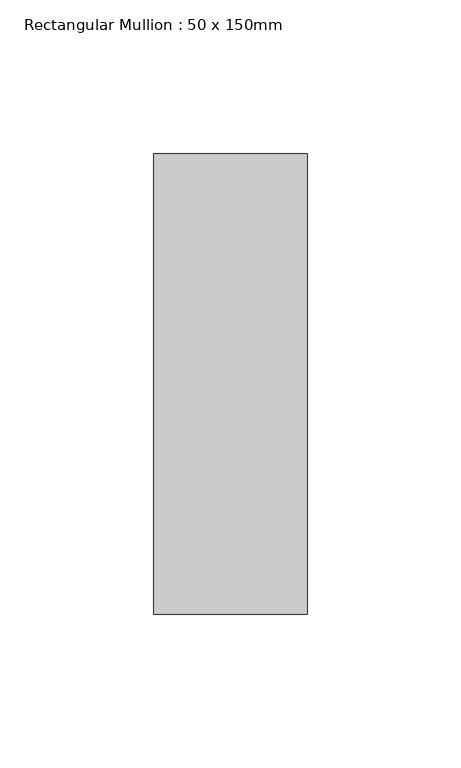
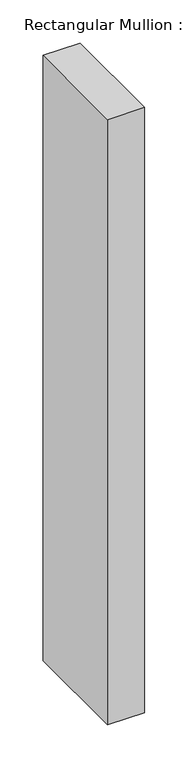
"""IFC4 building model written with IfcOpenShell, lengths in millimetres: member geometry, Rectangular Mullion : 50 x 150mm."""

from ifc_helpers import new_model, si_unit, frame, origin, place, context, project, spatial, polyline, outline, extrude, source, transform, mapped, element, save


def rectangular_mullion_50_x_150mm_bf936ab8(model_context):
    return source(origin(), model_context, "Body", "SweptSolid", [
        extrude(outline(polyline([(25.0, 75.0), (25.0, -75.0), (-25.0, -75.0), (-25.0, 75.0), (25.0, 75.0)])), frame((0.0, 0.0, -857.9520935), z_axis=(0.0, 0.0, 1.0), x_axis=(1.0, 0.0, 0.0)), (0.0, 0.0, 1.0), 857.9520935),
    ])


if __name__ == "__main__":
    model = new_model("IFC4")
    model_context = context("Model", 3, world=origin())
    ifc_project = project(units=[si_unit("LENGTHUNIT", "METRE", prefix="MILLI")], contexts=[model_context])
    site = spatial("IfcSite", under=ifc_project)
    building = spatial("IfcBuilding", under=site)
    placement = place(None, origin())
    rectangular_mullion_50_x_150mm_shape = rectangular_mullion_50_x_150mm_bf936ab8(model_context)
    element("IfcMember", 1, ObjectType="Rectangular Mullion : 50 x 150mm", at=placement, inside=building, context=model_context, shape_type="MappedRepresentation", body=[
        mapped(rectangular_mullion_50_x_150mm_shape, transform((0.0, 0.0, 0.0), x_axis=(1.0, 0.0, 0.0), y_axis=(0.0, 1.0, 0.0), z_axis=(0.0, 0.0, 1.0))),
    ])
    save(model, "model.ifc")
